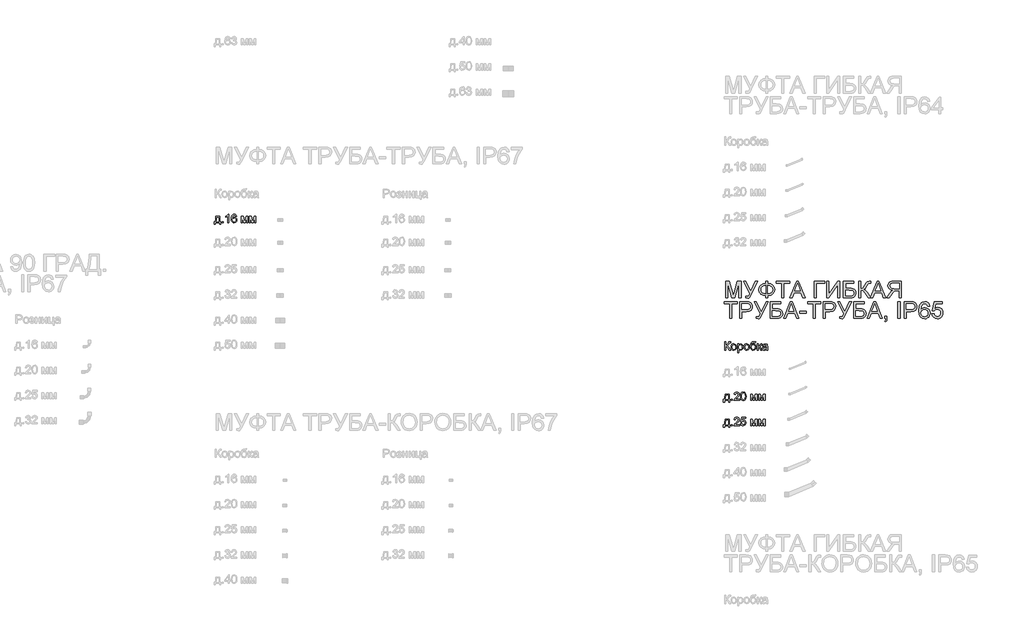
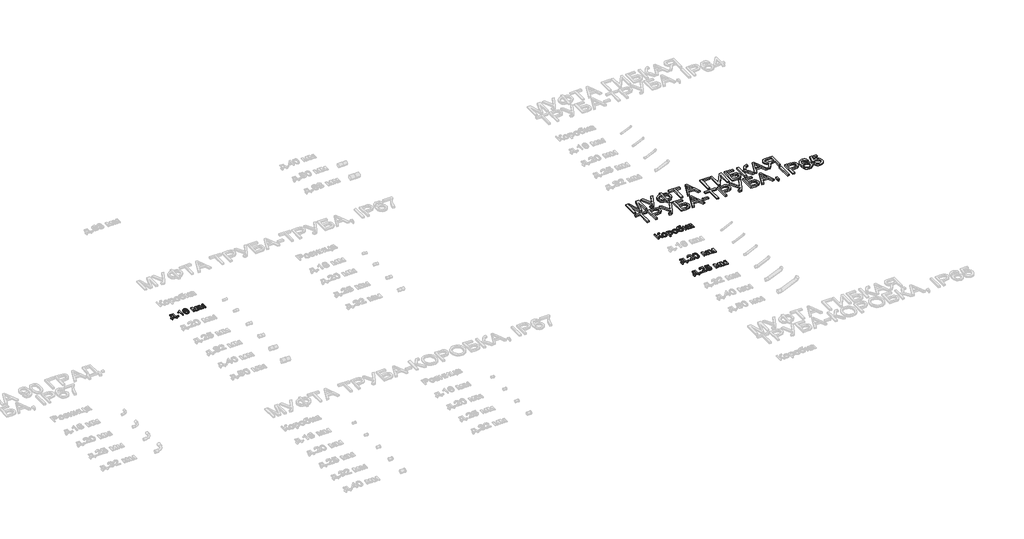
# One storey, part 74 of 98: 5 proxies.
"""IFC4 building model written with IfcOpenShell, lengths in millimetres."""

from ifc_helpers import new_model, si_unit, origin, origin_with_axes, place, context, project, spatial, polyline, outline, extrude, element, save

model = new_model("IFC4")

# Units and contexts
model_context = context("Model", 3, world=origin())
ifc_project = project(units=[si_unit("LENGTHUNIT", "METRE", prefix="MILLI")], contexts=[model_context])

# Site, building, storey
site = spatial("IfcSite", under=ifc_project)
building = spatial("IfcBuilding", under=site)
storey = spatial("IfcBuildingStorey", under=building, Name="Этаж 01", Elevation=0.0)

# Proxies
placement = place(None, origin())
element("IfcBuildingElementProxy", 1, Name="100", ObjectType="100", at=placement, inside=storey, context=model_context, shape_type="SweptSolid", body=[
    extrude(outline(polyline([(8356.3281893, -19485.7395637), (8403.4170847, -19485.7395637), (8403.4170847, -19546.9551277), (8412.8348638, -19546.9551277), (8412.8348638, -19579.9173545), (8400.277825, -19579.9173545), (8400.277825, -19559.5121665), (8348.4800401, -19559.5121665), (8348.4800401, -19579.9173545), (8335.9230013, -19579.9173545), (8335.9230013, -19546.9551277), (8343.7711505, -19546.9551277), (8353.4709725, -19523.0060098), (8356.3281893, -19485.7395637)]), holes=[polyline([(8367.3155982, -19498.2966025), (8364.3725423, -19526.905559), (8357.8978192, -19546.9551277), (8390.8600459, -19546.9551277), (8390.8600459, -19498.2966025), (8367.3155982, -19498.2966025)])]), origin_with_axes(), (0.0, 0.0, 1.0), 10.0),
    extrude(outline(polyline([(8430.1007921, -19559.5121665), (8430.1007921, -19546.9551277), (8442.6578308, -19546.9551277), (8442.6578308, -19559.5121665), (8430.1007921, -19559.5121665)])), origin_with_axes(), (0.0, 0.0, 1.0), 10.0),
    extrude(outline(polyline([(8510.1519142, -19559.5121665), (8497.5948755, -19559.5121665), (8497.5948755, -19481.2268779), (8485.7000243, -19489.7004265), (8472.4807979, -19496.0402596), (8472.4807979, -19484.1699338), (8490.8871604, -19472.4222355), (8502.0585103, -19459.0558563), (8510.1519142, -19459.0558563), (8510.1519142, -19559.5121665)])), origin_with_axes(), (0.0, 0.0, 1.0), 10.0),
    extrude(outline(polyline([(8604.329705, -19485.7395637), (8591.7726662, -19487.3091935), (8587.0147258, -19476.8368194), (8574.4331615, -19471.6128951), (8563.1023961, -19474.6540529), (8554.5307456, -19486.0706575), (8550.9622902, -19508.4501455), (8562.0355383, -19498.4314925), (8575.7575367, -19495.1573428), (8587.3580823, -19497.3952916), (8597.0946924, -19504.109138), (8603.6981742, -19514.3669143), (8605.8993348, -19527.2366527), (8601.754531, -19544.5638947), (8590.3501892, -19556.8266279), (8573.8936013, -19561.0817963), (8559.647371, -19558.2613677), (8548.3012771, -19549.8000818), (8540.8792579, -19534.8640728), (8538.4052515, -19512.6194748), (8541.1521037, -19487.6096305), (8549.3926604, -19470.5092491), (8560.6437181, -19461.9192045), (8575.2179764, -19459.0558563), (8586.2360422, -19460.8278213), (8595.0590787, -19466.1437161), (8601.2394962, -19474.5866079), (8604.329705, -19485.7395637)]), holes=[polyline([(8550.9622902, -19527.040449), (8553.868558, -19537.9174933), (8561.5940799, -19545.8146935), (8572.9125826, -19548.5247575), (8581.1991245, -19547.1206746), (8587.7137015, -19542.9084257), (8591.9351474, -19536.2865498), (8593.3422961, -19527.6535857), (8591.9535415, -19519.3670437), (8587.7872779, -19513.0486705), (8581.1623363, -19509.0479538), (8572.3975478, -19507.7143815), (8557.2040214, -19513.0486705), (8552.522723, -19519.2137596), (8550.9622902, -19527.040449)])]), origin_with_axes(), (0.0, 0.0, 1.0), 10.0),
    extrude(outline(polyline([(8659.2667496, -19485.7395637), (8680.8736855, -19485.7395637), (8697.5264771, -19544.7968867), (8715.4791185, -19485.7395637), (8736.1786121, -19485.7395637), (8736.1786121, -19559.5121665), (8723.6215733, -19559.5121665), (8723.6215733, -19500.111487), (8705.5708301, -19559.5121665), (8689.0897167, -19559.5121665), (8671.8237884, -19497.2665329), (8671.8237884, -19559.5121665), (8659.2667496, -19559.5121665), (8659.2667496, -19485.7395637)])), origin_with_axes(), (0.0, 0.0, 1.0), 10.0),
    extrude(outline(polyline([(8755.0141702, -19485.7395637), (8776.6211061, -19485.7395637), (8793.2738977, -19544.7968867), (8811.2265391, -19485.7395637), (8831.9260327, -19485.7395637), (8831.9260327, -19559.5121665), (8819.3689939, -19559.5121665), (8819.3689939, -19500.111487), (8801.3182507, -19559.5121665), (8784.8371373, -19559.5121665), (8767.571209, -19497.2665329), (8767.571209, -19559.5121665), (8755.0141702, -19559.5121665), (8755.0141702, -19485.7395637)])), origin_with_axes(), (0.0, 0.0, 1.0), 10.0),
])
element("IfcBuildingElementProxy", 2, Name="100", ObjectType="100", at=placement, inside=storey, context=model_context, shape_type="SweptSolid", body=[
    extrude(outline(polyline([(14422.316053, -20979.0558563), (14434.8730918, -20979.0558563), (14434.8730918, -21023.005492), (14448.9139213, -21019.6822913), (14458.7118451, -21002.8700841), (14465.6402893, -20988.8292546), (14473.4884386, -20981.8762849), (14484.7088394, -20979.0558563), (14492.9493961, -20979.2030091), (14492.9493961, -20991.7600479), (14490.1780184, -20991.6864715), (14487.4066407, -20991.6128951), (14477.5964542, -20994.6295274), (14470.1407124, -21007.5544482), (14461.2502309, -21023.2997976), (14452.5804785, -21028.4991965), (14462.2741691, -21034.1768419), (14471.8329696, -21046.0103794), (14492.9493961, -21079.5121665), (14478.3812691, -21079.5121665), (14460.5267296, -21051.2097783), (14447.9574281, -21036.4331848), (14434.8730918, -21032.4232711), (14434.8730918, -21079.5121665), (14422.316053, -21079.5121665), (14422.316053, -20979.0558563)])), origin_with_axes(), (0.0, 0.0, 1.0), 10.0),
    extrude(outline(polyline([(14499.2279155, -21042.6258651), (14501.9441109, -21024.8387706), (14510.0926971, -21012.3369141), (14520.160401, -21006.2116789), (14532.2146677, -21004.1699338), (14545.4063029, -21006.656203), (14555.9430564, -21014.1150104), (14562.8500409, -21025.957745), (14565.152369, -21041.5957955), (14561.0811416, -21063.9384953), (14549.2230786, -21076.5813732), (14532.2146677, -21081.0817963), (14518.863617, -21078.6047242), (14508.3391263, -21071.1735079), (14501.5057182, -21059.082453), (14499.2279155, -21042.6258651)]), holes=[polyline([(14511.7849543, -21042.6013396), (14513.2380882, -21053.9658276), (14517.5974898, -21062.0622972), (14524.158052, -21066.9091424), (14532.2146677, -21068.5247575), (14540.2344952, -21066.8999454), (14546.7827947, -21062.025509), (14551.1421964, -21053.8217405), (14552.5953303, -21042.2089321), (14551.1329993, -21031.175538), (14546.7460065, -21023.189433), (14540.18851, -21018.3425877), (14532.2146677, -21016.7269726), (14524.158052, -21018.3364563), (14517.5974898, -21023.1649075), (14513.2380882, -21031.242983), (14511.7849543, -21042.6013396)])]), origin_with_axes(), (0.0, 0.0, 1.0), 10.0),
    extrude(outline(polyline([(14579.2790377, -21107.7655037), (14579.2790377, -21005.7395637), (14591.8360764, -21005.7395637), (14591.8360764, -21018.0513478), (14600.5180915, -21007.6402873), (14612.2412644, -21004.1699338), (14628.1582921, -21009.0259762), (14638.5570898, -21022.7111864), (14642.0642315, -21042.0617793), (14638.1033687, -21062.4056537), (14626.600925, -21076.2625422), (14610.7206855, -21081.0817963), (14599.7945903, -21077.8566975), (14591.8360764, -21069.7019799), (14591.8360764, -21107.7655037), (14579.2790377, -21107.7655037)]), holes=[polyline([(14591.8360764, -21043.2144763), (14593.1941741, -21054.4716653), (14597.2684672, -21062.34434), (14603.2802722, -21066.9796532), (14610.4509054, -21068.5247575), (14617.7380346, -21066.9244709), (14623.9031237, -21062.1236108), (14628.1061755, -21053.9627619), (14629.5071927, -21042.2825085), (14628.139898, -21031.0866332), (14624.0380137, -21023.1035939), (14618.0354058, -21018.3211279), (14610.9659402, -21016.7269726), (14603.8688833, -21018.4222955), (14597.6363492, -21023.5082641), (14593.2861446, -21031.8254628), (14591.8360764, -21043.2144763)])]), origin_with_axes(), (0.0, 0.0, 1.0), 10.0),
    extrude(outline(polyline([(14653.0516404, -21042.6258651), (14655.7678358, -21024.8387706), (14663.916422, -21012.3369141), (14673.9841259, -21006.2116789), (14686.0383927, -21004.1699338), (14699.2300279, -21006.656203), (14709.7667813, -21014.1150104), (14716.6737658, -21025.957745), (14718.976094, -21041.5957955), (14714.9048665, -21063.9384953), (14703.0468036, -21076.5813732), (14686.0383927, -21081.0817963), (14672.6873419, -21078.6047242), (14662.1628512, -21071.1735079), (14655.3294431, -21059.082453), (14653.0516404, -21042.6258651)]), holes=[polyline([(14665.6086792, -21042.6013396), (14667.0618131, -21053.9658276), (14671.4212147, -21062.0622972), (14677.981777, -21066.9091424), (14686.0383927, -21068.5247575), (14694.0582202, -21066.8999454), (14700.6065197, -21062.025509), (14704.9659213, -21053.8217405), (14706.4190552, -21042.2089321), (14704.9567243, -21031.175538), (14700.5697315, -21023.189433), (14694.0122349, -21018.3425877), (14686.0383927, -21016.7269726), (14677.981777, -21018.3364563), (14671.4212147, -21023.1649075), (14667.0618131, -21031.242983), (14665.6086792, -21042.6013396)])]), origin_with_axes(), (0.0, 0.0, 1.0), 10.0),
    extrude(outline(polyline([(14784.9005475, -20977.4862265), (14795.8879564, -20977.4862265), (14792.6505949, -20987.2841503), (14786.2494481, -20990.8280802), (14770.8719807, -20991.6128951), (14750.1602244, -20994.5069001), (14742.2139733, -21003.7775264), (14739.5284348, -21020.1850634), (14750.4054791, -21008.1675849), (14764.4217831, -21004.1699338), (14777.4877253, -21006.7113853), (14788.0888581, -21014.3357396), (14795.1154042, -21026.2949702), (14797.4575863, -21041.8410502), (14792.8100104, -21063.447986), (14781.7858133, -21076.4832714), (14764.4217831, -21081.0817963), (14753.087952, -21079.6010713), (14744.5929436, -21075.1588962), (14733.7404247, -21060.002158), (14729.9635029, -21027.8370089), (14732.3455388, -21003.7438039), (14739.4916466, -20989.0499838), (14751.5796358, -20981.5543882), (14768.7873161, -20979.0558563), (14782.7668319, -20978.7738134), (14784.9005475, -20977.4862265)]), holes=[polyline([(14784.9005475, -21041.4486427), (14783.5393841, -21031.5679454), (14779.455894, -21023.6554169), (14772.8953317, -21018.4590837), (14764.102952, -21016.7269726), (14754.936559, -21018.5571855), (14748.1368734, -21024.0478243), (14743.9246246, -21032.598015), (14742.5205416, -21043.6068837), (14744.0717774, -21054.2785273), (14748.7254846, -21062.1113481), (14755.6539289, -21066.9214052), (14764.0293756, -21068.5247575), (14772.447742, -21066.6700191), (14779.1125374, -21061.105804), (14783.453545, -21052.4820369), (14784.9005475, -21041.4486427)])]), origin_with_axes(), (0.0, 0.0, 1.0), 10.0),
    extrude(outline(polyline([(14813.1538847, -21005.7395637), (14825.7109235, -21005.7395637), (14825.7109235, -21037.1321606), (14834.1231584, -21034.8758177), (14841.0148145, -21021.7301677), (14846.7415109, -21010.3871396), (14851.7937569, -21006.6960569), (14860.9785441, -21005.7395637), (14863.3820398, -21005.7395637), (14863.3820398, -21018.3701789), (14859.9975254, -21018.2966025), (14853.8661589, -21019.6209776), (14849.5496768, -21027.8860598), (14844.485168, -21036.8255923), (14837.3850455, -21041.203388), (14845.3067711, -21046.0900872), (14853.0813439, -21056.3846517), (14866.5212995, -21079.5121665), (14852.2474781, -21079.5121665), (14839.0773026, -21056.875161), (14832.4554267, -21047.2979664), (14825.7109235, -21044.9803098), (14825.7109235, -21079.5121665), (14813.1538847, -21079.5121665), (14813.1538847, -21005.7395637)])), origin_with_axes(), (0.0, 0.0, 1.0), 10.0),
    extrude(outline(polyline([(14921.4583441, -21070.0943874), (14909.2814501, -21078.6047242), (14895.8292318, -21081.0817963), (14885.3353979, -21079.5918742), (14877.5945475, -21075.122108), (14872.8212787, -21068.3346852), (14871.230189, -21059.8917934), (14873.6336847, -21049.9589795), (14879.9489923, -21042.7484924), (14888.741372, -21038.6282141), (14899.6061536, -21036.7397532), (14921.3847677, -21032.4232711), (14921.4583441, -21029.6273679), (14918.0002533, -21020.3567416), (14904.1188394, -21016.7269726), (14891.4146478, -21019.1427311), (14885.3568576, -21027.7143815), (14872.7998189, -21026.1447517), (14878.2322097, -21013.8820185), (14889.1705677, -21006.6960569), (14905.7375202, -21004.1699338), (14920.955572, -21006.4017513), (14929.551748, -21012.0058203), (14933.4022462, -21020.5284199), (14934.0153829, -21031.5158288), (14934.0153829, -21047.1385509), (14934.653045, -21068.9539532), (14937.1546426, -21079.5121665), (14924.5976038, -21079.5121665), (14921.4583441, -21070.0943874)]), holes=[polyline([(14921.4583441, -21044.9803098), (14901.2003089, -21048.8308081), (14890.396841, -21050.8664218), (14885.5040104, -21054.1773597), (14883.7872278, -21059.0088766), (14887.5273614, -21065.8024308), (14898.5025076, -21068.5247575), (14911.2066992, -21065.5203879), (14919.3982049, -21058.2485871), (14921.3847677, -21048.5365025), (14921.4583441, -21044.9803098)])]), origin_with_axes(), (0.0, 0.0, 1.0), 10.0),
])
element("IfcBuildingElementProxy", 3, Name="100", ObjectType="100", at=placement, inside=storey, context=model_context, shape_type="SweptSolid", body=[
    extrude(outline(polyline([(14428.905254, -21605.7395637), (14475.9941494, -21605.7395637), (14475.9941494, -21666.9551277), (14485.4119285, -21666.9551277), (14485.4119285, -21699.9173545), (14472.8548897, -21699.9173545), (14472.8548897, -21679.5121665), (14421.0571048, -21679.5121665), (14421.0571048, -21699.9173545), (14408.500066, -21699.9173545), (14408.500066, -21666.9551277), (14416.3482152, -21666.9551277), (14426.0480372, -21643.0060098), (14428.905254, -21605.7395637)]), holes=[polyline([(14439.8926629, -21618.2966025), (14436.949607, -21646.905559), (14430.4748839, -21666.9551277), (14463.4371106, -21666.9551277), (14463.4371106, -21618.2966025), (14439.8926629, -21618.2966025)])]), origin_with_axes(), (0.0, 0.0, 1.0), 10.0),
    extrude(outline(polyline([(14502.6778568, -21679.5121665), (14502.6778568, -21666.9551277), (14515.2348955, -21666.9551277), (14515.2348955, -21679.5121665), (14502.6778568, -21679.5121665)])), origin_with_axes(), (0.0, 0.0, 1.0), 10.0),
    extrude(outline(polyline([(14599.9949072, -21666.9551277), (14599.9949072, -21679.5121665), (14534.0704537, -21679.5121665), (14535.4193544, -21670.8546768), (14543.0467744, -21657.5250859), (14558.7675983, -21642.9692216), (14580.4481106, -21622.0489988), (14585.8682386, -21607.8242283), (14580.7546789, -21596.3095219), (14567.4005625, -21591.6128951), (14553.4823603, -21596.1991573), (14548.1971223, -21608.8788234), (14535.6400835, -21607.3091935), (14538.6843071, -21595.1629563), (14545.2663291, -21586.2908689), (14555.0427931, -21580.8646095), (14567.6703426, -21579.0558563), (14580.3898626, -21581.0669445), (14590.1479325, -21587.1002093), (14596.3559412, -21596.1133182), (14598.4252774, -21607.0639389), (14596.19346, -21618.9710528), (14588.7745064, -21631.2828369), (14570.7850768, -21648.4874515), (14556.3395771, -21660.5662437), (14550.6741944, -21666.9551277), (14599.9949072, -21666.9551277)])), origin_with_axes(), (0.0, 0.0, 1.0), 10.0),
    extrude(outline(polyline([(14612.551946, -21630.0933518), (14616.2430287, -21601.1900897), (14627.2059121, -21584.5250353), (14645.5141728, -21579.0558563), (14660.1804016, -21582.2932179), (14670.3094192, -21591.6251578), (14676.1955312, -21606.4875904), (14678.4763995, -21630.0933518), (14674.8221051, -21658.8739865), (14663.8960098, -21675.5758291), (14655.6646502, -21679.7053045), (14645.5141728, -21681.0817963), (14632.4666247, -21678.6905633), (14622.5583363, -21671.5168644), (14615.0535436, -21654.5268476), (14612.551946, -21630.0933518)]), holes=[polyline([(14625.1089848, -21630.0688263), (14626.5805128, -21649.8210238), (14630.9950967, -21661.2529568), (14637.5679217, -21666.7068073), (14645.5141728, -21668.5247575), (14653.4604239, -21666.700676), (14660.0332488, -21661.2284313), (14664.4478328, -21649.7903669), (14665.9193608, -21630.0688263), (14664.4968837, -21610.7611529), (14660.2294526, -21599.2403151), (14653.6688903, -21593.5197501), (14645.36702, -21591.6128951), (14637.506608, -21593.2928895), (14631.1913004, -21598.3328729), (14626.6295637, -21610.5710806), (14625.1089848, -21630.0688263)])]), origin_with_axes(), (0.0, 0.0, 1.0), 10.0),
    extrude(outline(polyline([(14731.8438143, -21605.7395637), (14753.4507502, -21605.7395637), (14770.1035418, -21664.7968867), (14788.0561832, -21605.7395637), (14808.7556768, -21605.7395637), (14808.7556768, -21679.5121665), (14796.198638, -21679.5121665), (14796.198638, -21620.111487), (14778.1478948, -21679.5121665), (14761.6667814, -21679.5121665), (14744.4008531, -21617.2665329), (14744.4008531, -21679.5121665), (14731.8438143, -21679.5121665), (14731.8438143, -21605.7395637)])), origin_with_axes(), (0.0, 0.0, 1.0), 10.0),
    extrude(outline(polyline([(14827.5912349, -21605.7395637), (14849.1981708, -21605.7395637), (14865.8509624, -21664.7968867), (14883.8036038, -21605.7395637), (14904.5030974, -21605.7395637), (14904.5030974, -21679.5121665), (14891.9460586, -21679.5121665), (14891.9460586, -21620.111487), (14873.8953154, -21679.5121665), (14857.414202, -21679.5121665), (14840.1482737, -21617.2665329), (14840.1482737, -21679.5121665), (14827.5912349, -21679.5121665), (14827.5912349, -21605.7395637)])), origin_with_axes(), (0.0, 0.0, 1.0), 10.0),
])
element("IfcBuildingElementProxy", 4, Name="100", ObjectType="100", at=placement, inside=storey, context=model_context, shape_type="SweptSolid", body=[
    extrude(outline(polyline([(14428.905254, -21905.7395637), (14475.9941494, -21905.7395637), (14475.9941494, -21966.9551277), (14485.4119285, -21966.9551277), (14485.4119285, -21999.9173545), (14472.8548897, -21999.9173545), (14472.8548897, -21979.5121665), (14421.0571048, -21979.5121665), (14421.0571048, -21999.9173545), (14408.500066, -21999.9173545), (14408.500066, -21966.9551277), (14416.3482152, -21966.9551277), (14426.0480372, -21943.0060098), (14428.905254, -21905.7395637)]), holes=[polyline([(14439.8926629, -21918.2966025), (14436.949607, -21946.905559), (14430.4748839, -21966.9551277), (14463.4371106, -21966.9551277), (14463.4371106, -21918.2966025), (14439.8926629, -21918.2966025)])]), origin_with_axes(), (0.0, 0.0, 1.0), 10.0),
    extrude(outline(polyline([(14502.6778568, -21979.5121665), (14502.6778568, -21966.9551277), (14515.2348955, -21966.9551277), (14515.2348955, -21979.5121665), (14502.6778568, -21979.5121665)])), origin_with_axes(), (0.0, 0.0, 1.0), 10.0),
    extrude(outline(polyline([(14599.9949072, -21966.9551277), (14599.9949072, -21979.5121665), (14534.0704537, -21979.5121665), (14535.4193544, -21970.8546768), (14543.0467744, -21957.5250859), (14558.7675983, -21942.9692216), (14580.4481106, -21922.0489988), (14585.8682386, -21907.8242283), (14580.7546789, -21896.3095219), (14567.4005625, -21891.6128951), (14553.4823603, -21896.1991573), (14548.1971223, -21908.8788234), (14535.6400835, -21907.3091935), (14538.6843071, -21895.1629563), (14545.2663291, -21886.2908689), (14555.0427931, -21880.8646095), (14567.6703426, -21879.0558563), (14580.3898626, -21881.0669445), (14590.1479325, -21887.1002093), (14596.3559412, -21896.1133182), (14598.4252774, -21907.0639389), (14596.19346, -21918.9710528), (14588.7745064, -21931.2828369), (14570.7850768, -21948.4874515), (14556.3395771, -21960.5662437), (14550.6741944, -21966.9551277), (14599.9949072, -21966.9551277)])), origin_with_axes(), (0.0, 0.0, 1.0), 10.0),
    extrude(outline(polyline([(14612.551946, -21952.8284591), (14625.1089848, -21951.2588292), (14631.4365551, -21964.1960127), (14644.5576796, -21968.5247575), (14653.5585257, -21967.019507), (14660.303029, -21962.5037555), (14664.5152778, -21955.4986692), (14665.9193608, -21946.5254142), (14660.6586482, -21931.6139307), (14654.0521007, -21927.5120464), (14644.7538833, -21926.1447517), (14633.7296862, -21928.3275182), (14626.6786146, -21933.9929009), (14614.1215759, -21932.4232711), (14625.1089848, -21880.6254862), (14673.76751, -21880.6254862), (14673.76751, -21893.1825249), (14635.2625278, -21893.1825249), (14629.8914507, -21920.847251), (14638.86164, -21915.4025974), (14648.261025, -21913.5877129), (14659.993395, -21915.8379245), (14669.7330708, -21922.5885591), (14676.2905674, -21932.8769922), (14678.4763995, -21945.7405993), (14676.5082309, -21958.2976381), (14670.6037248, -21969.0397923), (14659.2974849, -21978.0712953), (14644.5086287, -21981.0817963), (14632.1753848, -21979.1473501), (14622.3498698, -21973.3440117), (14615.6145636, -21964.3462312), (14612.551946, -21952.8284591)])), origin_with_axes(), (0.0, 0.0, 1.0), 10.0),
    extrude(outline(polyline([(14731.8438143, -21905.7395637), (14753.4507502, -21905.7395637), (14770.1035418, -21964.7968867), (14788.0561832, -21905.7395637), (14808.7556768, -21905.7395637), (14808.7556768, -21979.5121665), (14796.198638, -21979.5121665), (14796.198638, -21920.111487), (14778.1478948, -21979.5121665), (14761.6667814, -21979.5121665), (14744.4008531, -21917.2665329), (14744.4008531, -21979.5121665), (14731.8438143, -21979.5121665), (14731.8438143, -21905.7395637)])), origin_with_axes(), (0.0, 0.0, 1.0), 10.0),
    extrude(outline(polyline([(14827.5912349, -21905.7395637), (14849.1981708, -21905.7395637), (14865.8509624, -21964.7968867), (14883.8036038, -21905.7395637), (14904.5030974, -21905.7395637), (14904.5030974, -21979.5121665), (14891.9460586, -21979.5121665), (14891.9460586, -21920.111487), (14873.8953154, -21979.5121665), (14857.414202, -21979.5121665), (14840.1482737, -21917.2665329), (14840.1482737, -21979.5121665), (14827.5912349, -21979.5121665), (14827.5912349, -21905.7395637)])), origin_with_axes(), (0.0, 0.0, 1.0), 10.0),
])
element("IfcBuildingElementProxy", 5, Name="200", ObjectType="200", at=placement, inside=storey, context=model_context, shape_type="SweptSolid", body=[
    extrude(outline(polyline([(14433.303462, -20457.5373486), (14433.303462, -20256.6247283), (14476.5173337, -20256.6247283), (14517.6220153, -20398.234771), (14525.9116229, -20427.8124834), (14534.8879436, -20395.7822244), (14575.3059121, -20256.6247283), (14618.5197838, -20256.6247283), (14618.5197838, -20457.5373486), (14593.4057063, -20457.5373486), (14593.4057063, -20281.7388059), (14542.9322965, -20457.5373486), (14508.8909492, -20457.5373486), (14458.4175395, -20281.7388059), (14458.4175395, -20457.5373486), (14433.303462, -20457.5373486)])), origin_with_axes(), (0.0, 0.0, 1.0), 20.0),
    extrude(outline(polyline([(14648.3427509, -20256.6247283), (14676.1546297, -20256.6247283), (14736.2420223, -20375.622291), (14790.2961501, -20256.6247283), (14817.8627743, -20256.6247283), (14741.5885739, -20413.1462545), (14720.8400294, -20451.6021858), (14710.9930547, -20458.4080027), (14697.6389382, -20460.6766083), (14675.0264583, -20457.5373486), (14675.0264583, -20435.5625308), (14694.7939841, -20435.5625308), (14709.460213, -20429.9707244), (14723.0473214, -20404.5132904), (14648.3427509, -20256.6247283)])), origin_with_axes(), (0.0, 0.0, 1.0), 20.0),
    extrude(outline(polyline([(14913.6101949, -20281.7388059), (14913.6101949, -20256.6247283), (14938.7242724, -20256.6247283), (14938.7242724, -20281.7388059), (14972.5632846, -20288.53236), (14998.443783, -20304.7927442), (15014.869714, -20328.3494546), (15020.3450244, -20357.0319875), (15015.0413923, -20385.2485366), (14999.130496, -20408.8788234), (14987.3996589, -20418.3517848), (14973.4216759, -20425.4335132), (14938.7242724, -20432.4232711), (14938.7242724, -20457.5373486), (14913.6101949, -20457.5373486), (14913.6101949, -20432.4232711), (14881.5186222, -20426.3102986), (14855.2886359, -20410.7182334), (14845.095239, -20399.7384886), (14837.8142411, -20387.1308661), (14831.9894429, -20357.0319875), (14837.795847, -20326.8411385), (14845.0538522, -20314.2657056), (14855.2150595, -20303.3702672), (14881.4266517, -20287.9069606), (14913.6101949, -20281.7388059)]), holes=[polyline([(14913.6101949, -20306.8528834), (14890.7585916, -20310.8750599), (14872.7262425, -20320.8814501), (14861.0092009, -20336.4305958), (14857.1035204, -20357.0810385), (14860.96015, -20377.578197), (14872.5300387, -20393.1579995), (14890.5133369, -20403.2563602), (14913.6101949, -20407.3091935), (14913.6101949, -20306.8528834)]), polyline([(14938.7242724, -20306.8528834), (14938.7242724, -20407.3091935), (14962.2196692, -20403.1582584), (14980.1232596, -20393.0598976), (14991.4540251, -20377.529146), (14995.2309469, -20357.0810385), (14991.5214701, -20336.9088424), (14980.3930397, -20321.4210104), (14962.5568943, -20311.2061537), (14938.7242724, -20306.8528834)])]), origin_with_axes(), (0.0, 0.0, 1.0), 20.0),
    extrude(outline(polyline([(15105.1050361, -20457.5373486), (15105.1050361, -20281.7388059), (15039.1805826, -20281.7388059), (15039.1805826, -20256.6247283), (15196.1435672, -20256.6247283), (15196.1435672, -20281.7388059), (15130.2191136, -20281.7388059), (15130.2191136, -20457.5373486), (15105.1050361, -20457.5373486)])), origin_with_axes(), (0.0, 0.0, 1.0), 20.0),
    extrude(outline(polyline([(15200.9996095, -20457.5373486), (15281.1978845, -20256.6247283), (15302.5840911, -20256.6247283), (15382.7823661, -20457.5373486), (15356.2458115, -20457.5373486), (15333.240924, -20394.7521548), (15250.4920006, -20394.7521548), (15227.5361641, -20457.5373486), (15200.9996095, -20457.5373486)]), holes=[polyline([(15259.7135759, -20369.6380772), (15324.0683996, -20369.6380772), (15305.9686055, -20320.243788), (15291.8909878, -20281.7388059), (15279.3829999, -20315.9273059), (15259.7135759, -20369.6380772)])]), origin_with_axes(), (0.0, 0.0, 1.0), 20.0),
    extrude(outline(polyline([(15491.2339782, -20256.6247283), (15616.8043659, -20256.6247283), (15616.8043659, -20281.7388059), (15516.3480558, -20281.7388059), (15516.3480558, -20457.5373486), (15491.2339782, -20457.5373486), (15491.2339782, -20256.6247283)])), origin_with_axes(), (0.0, 0.0, 1.0), 20.0),
    extrude(outline(polyline([(15638.7791838, -20256.6247283), (15663.8932613, -20256.6247283), (15663.8932613, -20415.745954), (15769.058461, -20256.6247283), (15795.7421684, -20256.6247283), (15795.7421684, -20457.5373486), (15770.6280908, -20457.5373486), (15770.6280908, -20298.8575814), (15665.7081458, -20457.5373486), (15638.7791838, -20457.5373486), (15638.7791838, -20256.6247283)])), origin_with_axes(), (0.0, 0.0, 1.0), 20.0),
    extrude(outline(polyline([(15839.6918041, -20256.6247283), (15965.2621918, -20256.6247283), (15965.2621918, -20281.7388059), (15864.8058816, -20281.7388059), (15864.8058816, -20341.38474), (15911.8457261, -20341.38474), (15935.2307582, -20342.6600643), (15953.2937642, -20346.486037), (15967.1629154, -20353.8559396), (15977.9663833, -20365.7630535), (15984.919353, -20381.09147), (15987.2370096, -20398.7252803), (15985.587672, -20413.5325306), (15980.6396591, -20427.3464995), (15972.4174966, -20439.4436858), (15960.9457097, -20449.1005882), (15943.2505857, -20455.4281585), (15916.3584119, -20457.5373486), (15839.6918041, -20457.5373486), (15839.6918041, -20256.6247283)]), holes=[polyline([(15864.8058816, -20432.4232711), (15918.6147548, -20432.4232711), (15937.6342539, -20430.3508692), (15951.233625, -20424.1336635), (15959.4006053, -20413.7716539), (15962.1229321, -20399.2648406), (15960.5655649, -20388.4613727), (15955.8934636, -20379.5954166), (15948.4438532, -20373.0225916), (15938.5539589, -20369.098517), (15900.7111643, -20366.4988175), (15864.8058816, -20366.4988175), (15864.8058816, -20432.4232711)])]), origin_with_axes(), (0.0, 0.0, 1.0), 20.0),
    extrude(outline(polyline([(16021.7688662, -20256.6247283), (16046.8829437, -20256.6247283), (16046.8829437, -20344.5239997), (16063.8852233, -20342.8623994), (16074.9646027, -20337.8775983), (16083.9225293, -20326.148294), (16094.5604503, -20304.253184), (16108.4173388, -20276.171525), (16124.1136373, -20262.2655856), (16146.554439, -20256.6247283), (16163.0355524, -20256.9190339), (16163.0355524, -20282.0331114), (16157.492797, -20281.8859586), (16151.9500416, -20281.7388059), (16140.4475979, -20283.247122), (16132.3296685, -20287.7720706), (16117.418185, -20313.6219121), (16099.6372219, -20345.1126109), (16082.2977171, -20355.5114086), (16101.6850983, -20366.8666995), (16120.8026993, -20390.5337746), (16163.0355524, -20457.5373486), (16133.8992983, -20457.5373486), (16098.1902193, -20400.9325723), (16073.0516163, -20371.3793853), (16061.4449394, -20365.3645147), (16046.8829437, -20363.3595578), (16046.8829437, -20457.5373486), (16021.7688662, -20457.5373486), (16021.7688662, -20256.6247283)])), origin_with_axes(), (0.0, 0.0, 1.0), 20.0),
    extrude(outline(polyline([(16161.6130753, -20457.5373486), (16241.8113503, -20256.6247283), (16263.1975569, -20256.6247283), (16343.3958319, -20457.5373486), (16316.8592773, -20457.5373486), (16293.8543898, -20394.7521548), (16211.1054664, -20394.7521548), (16188.1496299, -20457.5373486), (16161.6130753, -20457.5373486)]), holes=[polyline([(16220.3270417, -20369.6380772), (16284.6818654, -20369.6380772), (16266.5820713, -20320.243788), (16252.5044536, -20281.7388059), (16239.9964657, -20315.9273059), (16220.3270417, -20369.6380772)])]), origin_with_axes(), (0.0, 0.0, 1.0), 20.0),
    extrude(outline(polyline([(16527.1896767, -20457.5373486), (16502.0755991, -20457.5373486), (16502.0755991, -20369.6380772), (16471.7621227, -20369.6380772), (16457.1939957, -20370.520994), (16445.2500936, -20375.30346), (16431.9818163, -20388.3264826), (16413.0972072, -20415.8931068), (16386.9530601, -20457.5373486), (16357.7677551, -20457.5373486), (16391.2695422, -20403.0908133), (16411.6256792, -20377.2409718), (16425.8995006, -20366.4988175), (16401.1594365, -20359.8401534), (16383.8383259, -20347.8104122), (16373.6296005, -20331.4028752), (16370.226692, -20311.6108239), (16372.2806998, -20295.6999276), (16378.4427233, -20281.2237711), (16388.0444433, -20269.5496491), (16400.4175411, -20262.0448564), (16417.3462443, -20257.9797603), (16440.6147805, -20256.6247283), (16527.1896767, -20256.6247283), (16527.1896767, -20457.5373486)]), holes=[polyline([(16502.0755991, -20344.5239997), (16502.0755991, -20281.7388059), (16439.5356599, -20281.7388059), (16419.6639008, -20283.9093096), (16405.9602965, -20290.4208209), (16397.9956513, -20300.2923211), (16395.3407696, -20312.5427916), (16400.9080504, -20329.5879907), (16407.7629183, -20336.3447567), (16417.1929601, -20340.9678071), (16445.8632302, -20344.5239997), (16502.0755991, -20344.5239997)])]), origin_with_axes(), (0.0, 0.0, 1.0), 20.0),
    extrude(outline(polyline([(14483.531617, -20701.4869843), (14483.531617, -20525.6884415), (14417.6071635, -20525.6884415), (14417.6071635, -20500.574364), (14574.5701481, -20500.574364), (14574.5701481, -20525.6884415), (14508.6456946, -20525.6884415), (14508.6456946, -20701.4869843), (14483.531617, -20701.4869843)])), origin_with_axes(), (0.0, 0.0, 1.0), 20.0),
    extrude(outline(polyline([(14602.8234853, -20701.4869843), (14602.8234853, -20500.574364), (14677.2828012, -20500.574364), (14707.301972, -20502.4873504), (14731.704811, -20511.880604), (14740.5768984, -20520.2069998), (14747.5237368, -20531.3047733), (14752.0118971, -20544.395241), (14753.5079506, -20558.6997192), (14749.46738, -20582.379057), (14737.3456682, -20602.1097947), (14727.6381821, -20609.8782361), (14714.678006, -20615.4271229), (14678.9995838, -20619.8662323), (14627.9375629, -20619.8662323), (14627.9375629, -20701.4869843), (14602.8234853, -20701.4869843)]), holes=[polyline([(14627.9375629, -20594.7521548), (14680.4711118, -20594.7521548), (14702.7402352, -20592.4467609), (14717.455515, -20585.5305794), (14725.6592835, -20574.4328059), (14728.393873, -20559.582636), (14726.7813236, -20548.3009215), (14721.9436754, -20538.7850406), (14714.4818022, -20531.6236044), (14704.9965781, -20527.4052242), (14679.8825006, -20525.6884415), (14627.9375629, -20525.6884415), (14627.9375629, -20594.7521548)])]), origin_with_axes(), (0.0, 0.0, 1.0), 20.0),
    extrude(outline(polyline([(14773.9131386, -20500.574364), (14801.7250174, -20500.574364), (14861.81241, -20619.5719267), (14915.8665378, -20500.574364), (14943.4331619, -20500.574364), (14867.1589616, -20657.0958902), (14846.4104171, -20695.5518214), (14836.5634423, -20702.3576384), (14823.2093259, -20704.626244), (14800.596846, -20701.4869843), (14800.596846, -20679.5121665), (14820.3643718, -20679.5121665), (14835.0306007, -20673.9203601), (14848.6177091, -20648.4629261), (14773.9131386, -20500.574364)])), origin_with_axes(), (0.0, 0.0, 1.0), 20.0),
    extrude(outline(polyline([(14966.9776096, -20500.574364), (15092.5479973, -20500.574364), (15092.5479973, -20525.6884415), (14992.0916872, -20525.6884415), (14992.0916872, -20585.3343757), (15039.1315316, -20585.3343757), (15062.5165638, -20586.6096999), (15080.5795697, -20590.4356727), (15094.448721, -20597.8055753), (15105.2521889, -20609.7126892), (15112.2051586, -20625.0411057), (15114.5228152, -20642.674916), (15112.8734776, -20657.4821663), (15107.9254647, -20671.2961352), (15099.7033021, -20683.3933215), (15088.2315152, -20693.0502239), (15070.5363913, -20699.3777942), (15043.6442174, -20701.4869843), (14966.9776096, -20701.4869843), (14966.9776096, -20500.574364)]), holes=[polyline([(14992.0916872, -20676.3729068), (15045.9005603, -20676.3729068), (15064.9200595, -20674.3005049), (15078.5194306, -20668.0832991), (15086.6864109, -20657.7212896), (15089.4087376, -20643.2144763), (15087.8513705, -20632.4110083), (15083.1792692, -20623.5450523), (15075.7296588, -20616.9722273), (15065.8397645, -20613.0481527), (15027.9969699, -20610.4484532), (14992.0916872, -20610.4484532), (14992.0916872, -20676.3729068)])]), origin_with_axes(), (0.0, 0.0, 1.0), 20.0),
    extrude(outline(polyline([(15125.6573769, -20701.4869843), (15205.8556518, -20500.574364), (15227.2418585, -20500.574364), (15307.4401334, -20701.4869843), (15280.9035789, -20701.4869843), (15257.8986914, -20638.7017905), (15175.149768, -20638.7017905), (15152.1939315, -20701.4869843), (15125.6573769, -20701.4869843)]), holes=[polyline([(15184.3713433, -20613.5877129), (15248.726167, -20613.5877129), (15230.6263728, -20564.1934237), (15216.5487552, -20525.6884415), (15204.0407673, -20559.8769416), (15184.3713433, -20613.5877129)])]), origin_with_axes(), (0.0, 0.0, 1.0), 20.0),
    extrude(outline(polyline([(15318.5746952, -20641.8410502), (15318.5746952, -20616.7269726), (15397.0561875, -20616.7269726), (15397.0561875, -20641.8410502), (15318.5746952, -20641.8410502)])), origin_with_axes(), (0.0, 0.0, 1.0), 20.0),
    extrude(outline(polyline([(15478.6769395, -20701.4869843), (15478.6769395, -20525.6884415), (15412.7524859, -20525.6884415), (15412.7524859, -20500.574364), (15569.7154705, -20500.574364), (15569.7154705, -20525.6884415), (15503.791017, -20525.6884415), (15503.791017, -20701.4869843), (15478.6769395, -20701.4869843)])), origin_with_axes(), (0.0, 0.0, 1.0), 20.0),
    extrude(outline(polyline([(15597.9688078, -20701.4869843), (15597.9688078, -20500.574364), (15672.4281236, -20500.574364), (15702.4472944, -20502.4873504), (15726.8501334, -20511.880604), (15735.7222209, -20520.2069998), (15742.6690592, -20531.3047733), (15747.1572195, -20544.395241), (15748.653273, -20558.6997192), (15744.6127024, -20582.379057), (15732.4909907, -20602.1097947), (15722.7835045, -20609.8782361), (15709.8233284, -20615.4271229), (15674.1449062, -20619.8662323), (15623.0828853, -20619.8662323), (15623.0828853, -20701.4869843), (15597.9688078, -20701.4869843)]), holes=[polyline([(15623.0828853, -20594.7521548), (15675.6164342, -20594.7521548), (15697.8855577, -20592.4467609), (15712.6008375, -20585.5305794), (15720.804606, -20574.4328059), (15723.5391955, -20559.582636), (15721.926646, -20548.3009215), (15717.0889978, -20538.7850406), (15709.6271247, -20531.6236044), (15700.1419006, -20527.4052242), (15675.027823, -20525.6884415), (15623.0828853, -20525.6884415), (15623.0828853, -20594.7521548)])]), origin_with_axes(), (0.0, 0.0, 1.0), 20.0),
    extrude(outline(polyline([(15769.058461, -20500.574364), (15796.8703398, -20500.574364), (15856.9577324, -20619.5719267), (15911.0118602, -20500.574364), (15938.5784844, -20500.574364), (15862.304284, -20657.0958902), (15841.5557395, -20695.5518214), (15831.7087648, -20702.3576384), (15818.3546483, -20704.626244), (15795.7421684, -20701.4869843), (15795.7421684, -20679.5121665), (15815.5096942, -20679.5121665), (15830.1759231, -20673.9203601), (15843.7630315, -20648.4629261), (15769.058461, -20500.574364)])), origin_with_axes(), (0.0, 0.0, 1.0), 20.0),
    extrude(outline(polyline([(15962.1229321, -20500.574364), (16087.6933197, -20500.574364), (16087.6933197, -20525.6884415), (15987.2370096, -20525.6884415), (15987.2370096, -20585.3343757), (16034.276854, -20585.3343757), (16057.6618862, -20586.6096999), (16075.7248922, -20590.4356727), (16089.5940434, -20597.8055753), (16100.3975113, -20609.7126892), (16107.350481, -20625.0411057), (16109.6681376, -20642.674916), (16108.0188, -20657.4821663), (16103.0707871, -20671.2961352), (16094.8486246, -20683.3933215), (16083.3768377, -20693.0502239), (16065.6817137, -20699.3777942), (16038.7895399, -20701.4869843), (15962.1229321, -20701.4869843), (15962.1229321, -20500.574364)]), holes=[polyline([(15987.2370096, -20676.3729068), (16041.0458828, -20676.3729068), (16060.0653819, -20674.3005049), (16073.664753, -20668.0832991), (16081.8317333, -20657.7212896), (16084.5540601, -20643.2144763), (16082.9966929, -20632.4110083), (16078.3245916, -20623.5450523), (16070.8749812, -20616.9722273), (16060.9850869, -20613.0481527), (16023.1422923, -20610.4484532), (15987.2370096, -20610.4484532), (15987.2370096, -20676.3729068)])]), origin_with_axes(), (0.0, 0.0, 1.0), 20.0),
    extrude(outline(polyline([(16120.8026993, -20701.4869843), (16201.0009743, -20500.574364), (16222.3871809, -20500.574364), (16302.5854559, -20701.4869843), (16276.0489013, -20701.4869843), (16253.0440138, -20638.7017905), (16170.2950904, -20638.7017905), (16147.3392539, -20701.4869843), (16120.8026993, -20701.4869843)]), holes=[polyline([(16179.5166657, -20613.5877129), (16243.8714894, -20613.5877129), (16225.7716953, -20564.1934237), (16211.6940776, -20525.6884415), (16199.1860898, -20559.8769416), (16179.5166657, -20613.5877129)])]), origin_with_axes(), (0.0, 0.0, 1.0), 20.0),
    extrude(outline(polyline([(16332.5555757, -20701.4869843), (16332.5555757, -20676.3729068), (16357.6696533, -20676.3729068), (16357.6696533, -20701.4869843), (16353.1569675, -20727.1651476), (16347.3199065, -20735.8410313), (16338.8340951, -20742.2973603), (16332.5555757, -20732.8795812), (16341.7771511, -20722.0393251), (16345.0635636, -20701.4869843), (16332.5555757, -20701.4869843)])), origin_with_axes(), (0.0, 0.0, 1.0), 20.0),
    extrude(outline(polyline([(16489.5185603, -20701.4869843), (16489.5185603, -20500.574364), (16514.6326379, -20500.574364), (16514.6326379, -20701.4869843), (16489.5185603, -20701.4869843)])), origin_with_axes(), (0.0, 0.0, 1.0), 20.0),
    extrude(outline(polyline([(16564.860793, -20701.4869843), (16564.860793, -20500.574364), (16639.3201088, -20500.574364), (16669.3392796, -20502.4873504), (16693.7421186, -20511.880604), (16702.6142061, -20520.2069998), (16709.5610444, -20531.3047733), (16714.0492047, -20544.395241), (16715.5452582, -20558.6997192), (16711.5046876, -20582.379057), (16699.3829759, -20602.1097947), (16689.6754897, -20609.8782361), (16676.7153136, -20615.4271229), (16641.0368914, -20619.8662323), (16589.9748705, -20619.8662323), (16589.9748705, -20701.4869843), (16564.860793, -20701.4869843)]), holes=[polyline([(16589.9748705, -20594.7521548), (16642.5084194, -20594.7521548), (16664.7775428, -20592.4467609), (16679.4928227, -20585.5305794), (16687.6965911, -20574.4328059), (16690.4311806, -20559.582636), (16688.8186312, -20548.3009215), (16683.980983, -20538.7850406), (16676.5191099, -20531.6236044), (16667.0338857, -20527.4052242), (16641.9198082, -20525.6884415), (16589.9748705, -20525.6884415), (16589.9748705, -20594.7521548)])]), origin_with_axes(), (0.0, 0.0, 1.0), 20.0),
    extrude(outline(polyline([(16869.3689831, -20553.9417788), (16844.2549056, -20557.0810385), (16834.7390246, -20536.1362902), (16823.3469455, -20528.3004037), (16809.5758961, -20525.6884415), (16786.9143652, -20531.7707572), (16777.4781921, -20541.3786086), (16769.7710643, -20554.6039664), (16764.565534, -20573.3107658), (16762.6341536, -20599.3629424), (16772.7079889, -20587.6091127), (16784.7806497, -20579.3256364), (16798.1776857, -20574.4144118), (16812.2246465, -20572.7773369), (16835.4257377, -20577.2532345), (16854.898958, -20590.6809274), (16868.1059216, -20611.19648), (16872.5082428, -20636.9359569), (16870.4358409, -20654.9192551), (16864.2186352, -20671.5904408), (16854.3716604, -20685.7293722), (16841.4099515, -20696.1159072), (16825.9221195, -20702.4986598), (16808.4967756, -20704.626244), (16780.0043151, -20698.9853867), (16757.3121274, -20682.062815), (16748.6531049, -20668.9539532), (16742.4680889, -20652.190797), (16737.520076, -20607.701601), (16743.0137805, -20557.6819124), (16749.8809111, -20538.6041653), (16759.4948939, -20523.4811496), (16769.9151514, -20513.4594309), (16781.9970092, -20506.3010604), (16811.145526, -20500.574364), (16833.1816575, -20504.1182939), (16850.8277305, -20514.7500836), (16863.1885656, -20531.6358671), (16869.3689831, -20553.9417788)]), holes=[polyline([(16762.6341536, -20636.5435494), (16768.4466891, -20658.2976381), (16783.8977329, -20674.0920384), (16806.5347383, -20679.5121665), (16823.1078222, -20676.7040006), (16836.1369762, -20668.2795029), (16844.579868, -20655.035751), (16847.3941653, -20637.7698227), (16844.6166562, -20621.1967389), (16836.284129, -20608.5599923), (16823.0342458, -20600.5585589), (16805.5046687, -20597.8914145), (16788.9561103, -20600.5585589), (16775.1176159, -20608.5599923), (16765.7550192, -20620.8901705), (16762.6341536, -20636.5435494)])]), origin_with_axes(), (0.0, 0.0, 1.0), 20.0),
    extrude(outline(polyline([(16894.4830606, -20648.1195695), (16919.5971382, -20644.9803098), (16924.2079258, -20660.0573403), (16932.2522788, -20670.8546768), (16943.6934089, -20677.3477941), (16958.4945278, -20679.5121665), (16976.4962201, -20676.5016655), (16989.9852266, -20667.4701625), (16998.4097243, -20653.4599898), (17001.2178902, -20635.5134798), (16998.5875339, -20618.6154335), (16990.6964651, -20605.6905128), (16977.4833701, -20597.4867443), (16958.8869353, -20594.7521548), (16936.838541, -20599.1176878), (16922.7363979, -20610.4484532), (16897.6223203, -20607.3091935), (16919.5971382, -20503.7136237), (17016.9141886, -20503.7136237), (17016.9141886, -20528.8277012), (16939.9042243, -20528.8277012), (16929.16207, -20584.1571533), (16947.1024487, -20573.2678463), (16965.9012186, -20569.6380772), (16989.3659586, -20574.1385003), (17008.8453102, -20587.6397695), (17021.9603033, -20608.2166358), (17026.3319677, -20633.94385), (17022.3956304, -20659.0579275), (17010.5866183, -20680.542236), (17000.1510324, -20691.0789895), (16987.9741383, -20698.605242), (16974.0559362, -20703.1209935), (16958.3964259, -20704.626244), (16933.7299382, -20700.7573517), (16914.0789082, -20689.1506747), (16900.6082959, -20671.1551138), (16894.4830606, -20648.1195695)])), origin_with_axes(), (0.0, 0.0, 1.0), 20.0),
])

save(model, "model.ifc")
